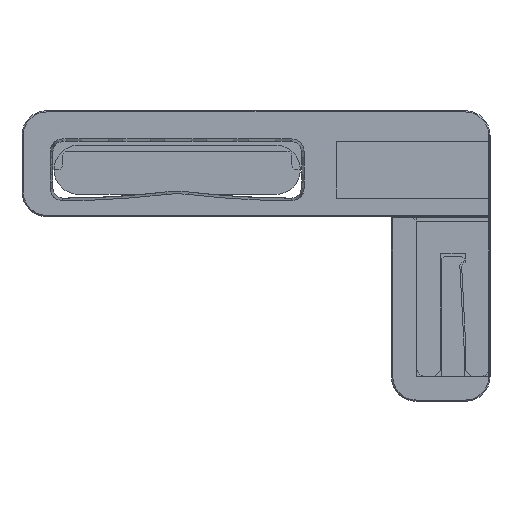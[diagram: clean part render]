
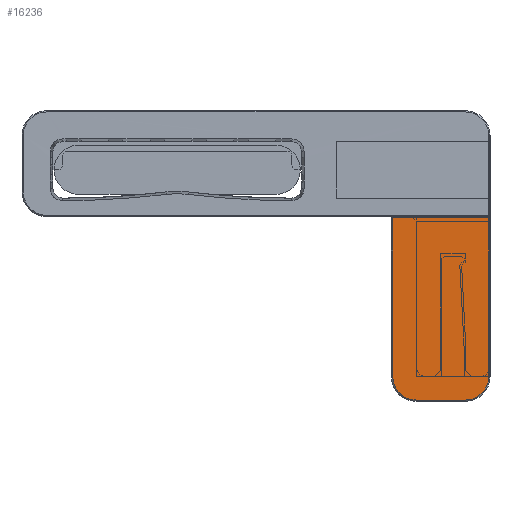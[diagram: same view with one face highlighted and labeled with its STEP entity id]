
A CAD part, left-side view. The second image highlights one B-rep face of the part: STEP entity #16236.
In plain terms, the highlighted planar face has unit normal (-1, 0, 0).
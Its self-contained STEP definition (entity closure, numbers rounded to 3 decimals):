
#3849=DIRECTION('',(0.,1.,0.));
#3850=VECTOR('',#3849,7.8);
#3851=CARTESIAN_POINT('',(-1075.5,-25.3,-3.9));
#3852=LINE('',#3851,#3850);
#3853=DIRECTION('',(0.,0.,1.));
#3854=VECTOR('',#3853,12.9);
#3855=CARTESIAN_POINT('',(-1075.5,-25.3,
-16.8));
#3856=LINE('',#3855,#3854);
#3857=CARTESIAN_POINT('',(-1075.5,-23.4,-16.8));
#3858=DIRECTION('',(-1.,0.,0.));
#3859=DIRECTION('',(0.,0.,-1.));
#3860=AXIS2_PLACEMENT_3D('',#3857,#3858,#3859);
#3862=DIRECTION('',(0.,-1.,0.));
#3863=VECTOR('',#3862,4.);
#3864=CARTESIAN_POINT('',(-1075.5,-19.4,
-18.7));
#3865=LINE('',#3864,#3863);
#3866=CARTESIAN_POINT('',(-1075.5,-19.4,-16.8));
#3867=DIRECTION('',(-1.,0.,0.));
#3868=DIRECTION('',(0.,1.,0.));
#3869=AXIS2_PLACEMENT_3D('',#3866,#3867,#3868);
#3871=DIRECTION('',(0.,0.,-1.));
#3872=VECTOR('',#3871,12.9);
#3873=CARTESIAN_POINT('',(-1075.5,-17.5,-3.9));
#3874=LINE('',#3873,#3872);
#11494=CARTESIAN_POINT('',(-1075.5,-25.3,-3.9));
#11495=CARTESIAN_POINT('',(-1075.5,-17.5,-3.9));
#11496=VERTEX_POINT('',#11494);
#11497=VERTEX_POINT('',#11495);
#11498=CARTESIAN_POINT('',(-1075.5,-17.5,
-16.8));
#11499=VERTEX_POINT('',#11498);
#11504=CARTESIAN_POINT('',(-1075.5,-19.4,-18.7));
#11505=VERTEX_POINT('',#11504);
#11508=CARTESIAN_POINT('',(-1075.5,-23.4,
-18.7));
#11509=VERTEX_POINT('',#11508);
#11512=CARTESIAN_POINT('',(-1075.5,-25.3,-16.8));
#11513=VERTEX_POINT('',#11512);
#16220=CARTESIAN_POINT('',(-1075.5,-21.4,-11.3));
#16221=DIRECTION('',(1.,0.,0.));
#16222=DIRECTION('',(0.,0.,-1.));
#16223=AXIS2_PLACEMENT_3D('',#16220,#16221,#16222);
#16224=PLANE('',#16223);
#16225=ORIENTED_EDGE('',*,*,#16182,.F.);
#16226=ORIENTED_EDGE('',*,*,#16199,.F.);
#16227=ORIENTED_EDGE('',*,*,#16210,.F.);
#16229=ORIENTED_EDGE('',*,*,#16228,.F.);
#16231=ORIENTED_EDGE('',*,*,#16230,.F.);
#16233=ORIENTED_EDGE('',*,*,#16232,.F.);
#16234=EDGE_LOOP('',(#16225,#16226,#16227,#16229,#16231,#16233));
#16235=FACE_OUTER_BOUND('',#16234,.F.);
#3861=CIRCLE('',#3860,1.9);
#3870=CIRCLE('',#3869,1.9);
#16182=EDGE_CURVE('',#11496,#11497,#3852,.T.);
#16199=EDGE_CURVE('',#11513,#11496,#3856,.T.);
#16210=EDGE_CURVE('',#11509,#11513,#3861,.T.);
#16228=EDGE_CURVE('',#11505,#11509,#3865,.T.);
#16230=EDGE_CURVE('',#11499,#11505,#3870,.T.);
#16232=EDGE_CURVE('',#11497,#11499,#3874,.T.);
#16236=ADVANCED_FACE('',(#16235),#16224,.F.);
